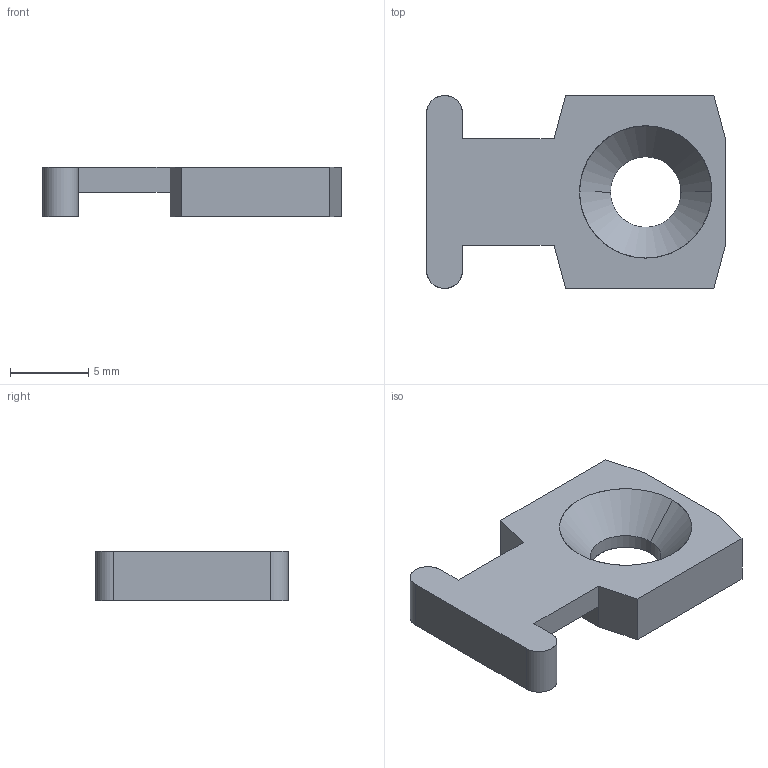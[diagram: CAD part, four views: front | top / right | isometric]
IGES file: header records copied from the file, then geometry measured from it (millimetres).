
Start section: SolidWorks IGES FILE using analytic representation for surfaces
Global section: file name: Y:\CONTENTCENTRAL\FTH-1\cache\FTDEFAU0606200315812.igs; native system: SolidWorks 2003 by SolidWorks Corporation; preprocessor: Version 5.3; author: PartStream; date: 030606.020620; units: inch
Bounding box: 19.05 x 12.29 x 3.17 mm (x, y, z)
Surface area: 618.6 mm2 (no closed solid volume)
Topology: 0 solids, 0 shells, 22 faces, 232 edges, 232 vertices
Faces by surface type: bspline 16, revolution 6
